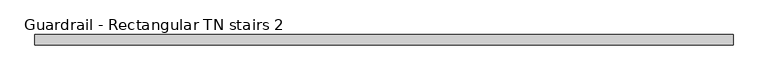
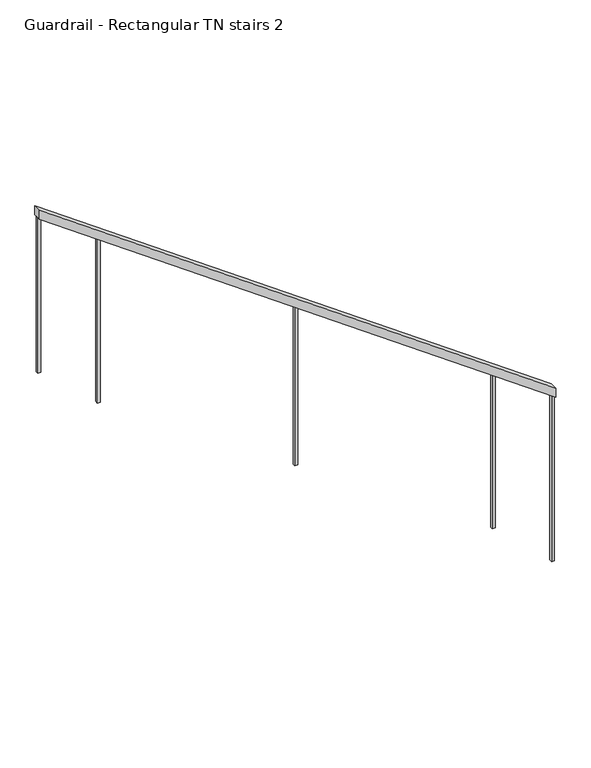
"""IFC4 building model written with IfcOpenShell, lengths in millimetres: railing geometry, Guardrail - Rectangular TN stairs 2."""

import ifcopenshell
import ifcopenshell.guid

model = None  # the IFC model being written
_history = None  # IfcOwnerHistory: only IFC2X3 demands one
_inside = {}  # id of a spatial element -> (the spatial element, [elements in it])
_under = {}  # id of a project, library or spatial element -> (it, [spatial elements below it])
_declared = {}  # id of a project -> (the project, [libraries it declares])
_typed = {}  # id of a type object -> (the type object, [elements of that type])
_made_of = {}  # id of a material, layer set ... -> (it, [elements and type objects made of it])


def new_model(schema):
    """Start an empty IFC model of exactly this schema.

    Asked for "IFC4X3", IfcOpenShell would pick the latest addendum, in which some entities
    have other attributes; the version numbers below select the first issue.
    IFC2X3 requires an IfcOwnerHistory on every rooted entity: one is made here for all.
    """
    global model, _history
    if schema == "IFC4X3":
        model = ifcopenshell.file(schema_version=(4, 3, 0, 0))
    else:
        model = ifcopenshell.file(schema=schema)
    _inside.clear()
    _under.clear()
    _declared.clear()
    _typed.clear()
    _made_of.clear()
    _history = None
    if model.schema == "IFC2X3":
        org = make("IfcOrganization", Name="unknown")
        user = make(
            "IfcPersonAndOrganization",
            ThePerson=make("IfcPerson", FamilyName="unknown"),
            TheOrganization=org,
        )
        app = make(
            "IfcApplication",
            ApplicationDeveloper=org,
            Version="unknown",
            ApplicationFullName="unknown",
            ApplicationIdentifier="unknown",
        )
        _history = make(
            "IfcOwnerHistory",
            OwningUser=user,
            OwningApplication=app,
            ChangeAction="ADDED",
            CreationDate=0,
        )
    return model


def make(cls, **values):
    """One entity of the class cls with the attributes given. An attribute that is None is left unset."""
    return model.create_entity(
        cls, **{name: value for name, value in values.items() if value is not None}
    )


def rooted(cls, **values):
    """An entity with a GlobalId (a new one), such as an element, a storey or a relation."""
    return make(cls, GlobalId=ifcopenshell.guid.new(), OwnerHistory=_history, **values)


def si_unit(unit_type, name, prefix=None):
    """IfcSIUnit, for example si_unit("LENGTHUNIT", "METRE", prefix="MILLI")."""
    return make("IfcSIUnit", UnitType=unit_type, Prefix=prefix, Name=name)


def assignment(units):
    """IfcUnitAssignment: the units of a project."""
    return None if units is None else make("IfcUnitAssignment", Units=units)


def point(xyz):
    """IfcCartesianPoint."""
    return None if xyz is None else make("IfcCartesianPoint", Coordinates=xyz)


def direction(xyz):
    """IfcDirection."""
    return None if xyz is None else make("IfcDirection", DirectionRatios=xyz)


def frame(location, z_axis=None, x_axis=None):
    """IfcAxis2Placement3D, a coordinate frame: its origin and axes. An axis left out is left unset."""
    return make(
        "IfcAxis2Placement3D",
        Location=point(location),
        Axis=direction(z_axis),
        RefDirection=direction(x_axis),
    )


def origin():
    """The frame at (0, 0, 0) with its axes left unset."""
    return frame((0.0, 0.0, 0.0))


def place(relative_to, where):
    """IfcLocalPlacement: puts the frame where relative to a parent placement (None: the world)."""
    return make(
        "IfcLocalPlacement", PlacementRelTo=relative_to, RelativePlacement=where
    )


def context(
    kind, dimensions, precision=None, world=None, true_north=None, identifier=None
):
    """IfcGeometricRepresentationContext, for example the 3D "Model" context."""
    return make(
        "IfcGeometricRepresentationContext",
        ContextIdentifier=identifier,
        ContextType=kind,
        CoordinateSpaceDimension=dimensions,
        Precision=precision,
        WorldCoordinateSystem=world,
        TrueNorth=true_north,
    )


def project(units=None, contexts=None):
    """IfcProject with its units and contexts."""
    return rooted(
        "IfcProject",
        Name="project",
        RepresentationContexts=contexts,
        UnitsInContext=assignment(units),
    )


def spatial(cls, under=None, at=None, **own):
    """A site, building, storey or space (cls), placed at a placement, below another one or the project."""
    s = rooted(cls, ObjectPlacement=at, **own)
    if under is not None:
        _under.setdefault(under.id(), (under, []))[1].append(s)
    return s


def polyline(points):
    """IfcPolyline through the points."""
    return make("IfcPolyline", Points=[point(p) for p in points])


def outline(outer, holes=None, kind="AREA"):
    """IfcArbitraryClosedProfileDef: a profile drawn as a closed curve; with holes, ...WithVoids."""
    if holes is None:
        return make("IfcArbitraryClosedProfileDef", ProfileType=kind, OuterCurve=outer)
    return make(
        "IfcArbitraryProfileDefWithVoids",
        ProfileType=kind,
        OuterCurve=outer,
        InnerCurves=holes,
    )


def extrude(swept, where, along, depth):
    """IfcExtrudedAreaSolid: the profile swept, set in the frame where, extruded along a direction by depth."""
    return make(
        "IfcExtrudedAreaSolid",
        SweptArea=swept,
        Position=where,
        ExtrudedDirection=direction(along),
        Depth=depth,
    )


def shape(context_of_items, identifier, shape_type, items):
    """IfcShapeRepresentation: the items that make up one representation, for example the "Body"."""
    return make(
        "IfcShapeRepresentation",
        ContextOfItems=context_of_items,
        RepresentationIdentifier=identifier,
        RepresentationType=shape_type,
        Items=items,
    )


def source(mapping_origin, context_of_items, identifier, shape_type, items):
    """IfcRepresentationMap: a shape defined once, which mapped items show again and again."""
    return make(
        "IfcRepresentationMap",
        MappingOrigin=mapping_origin,
        MappedRepresentation=shape(context_of_items, identifier, shape_type, items),
    )


def transform(
    local_origin,
    x_axis=None,
    y_axis=None,
    z_axis=None,
    scale=None,
    scale2=None,
    scale3=None,
    uniform=True,
):
    """IfcCartesianTransformationOperator3D, or its non-uniform kind. x_axis, y_axis, z_axis: its Axis1, 2, 3."""
    if uniform:
        return make(
            "IfcCartesianTransformationOperator3D",
            Axis1=direction(x_axis),
            Axis2=direction(y_axis),
            LocalOrigin=point(local_origin),
            Scale=scale,
            Axis3=direction(z_axis),
        )
    return make(
        "IfcCartesianTransformationOperator3DnonUniform",
        Axis1=direction(x_axis),
        Axis2=direction(y_axis),
        LocalOrigin=point(local_origin),
        Scale=scale,
        Axis3=direction(z_axis),
        Scale2=scale2,
        Scale3=scale3,
    )


def mapped(mapping_source, mapping_target):
    """IfcMappedItem: shows the shape of a source again, moved by a transform."""
    return make(
        "IfcMappedItem", MappingSource=mapping_source, MappingTarget=mapping_target
    )


def made_of(thing, what):
    """Note that an element or type object is made of a material, layer set ...; save() writes the relation."""
    if what is not None:
        _made_of.setdefault(what.id(), (what, []))[1].append(thing)
    return thing


def element(
    cls,
    number,
    at=None,
    inside=None,
    cuts=None,
    type_object=None,
    material=None,
    context=None,
    identifier="Body",
    shape_type=None,
    held_by="IfcProductDefinitionShape",
    body=None,
    shapes=None,
    **own,
):
    """One element of the class cls, such as IfcWall. Its Tag is "e" and its number.

    at: its placement. inside: the storey or other place that contains it. cuts: it is an
    opening in that element (IfcRelVoidsElement). A single representation is given by context,
    identifier, shape_type and body (its items); several are given by shapes. held_by: the class
    of the entity that holds the representations. save() writes the other relations.
    """
    e = rooted(cls, Tag="e%d" % number, ObjectPlacement=at, **own)
    if body is not None:
        shapes = [shape(context, identifier, shape_type, body)]
    if shapes is not None:
        e.Representation = make(held_by, Representations=shapes)
    if inside is not None:
        _inside.setdefault(inside.id(), (inside, []))[1].append(e)
    if cuts is not None:
        rooted(
            "IfcRelVoidsElement", RelatingBuildingElement=cuts, RelatedOpeningElement=e
        )
    if type_object is not None:
        _typed.setdefault(type_object.id(), (type_object, []))[1].append(e)
    return made_of(e, material)


def aggregate(whole, parts):
    """IfcRelAggregates: a whole, such as a stair, and the parts it consists of."""
    return rooted("IfcRelAggregates", RelatingObject=whole, RelatedObjects=parts)


def save(model, path):
    """Write the relations noted so far, then the file.

    IfcRelAggregates (storeys below a building ...), IfcRelContainedInSpatialStructure (elements
    in a storey), IfcRelDefinesByType, IfcRelAssociatesMaterial and IfcRelDeclares: one each for
    every whole, place, type object, material and project.
    """
    for whole, parts in _under.values():
        aggregate(whole, parts)
    for where, things in _inside.values():
        rooted(
            "IfcRelContainedInSpatialStructure",
            RelatedElements=things,
            RelatingStructure=where,
        )
    for kind, things in _typed.values():
        rooted("IfcRelDefinesByType", RelatedObjects=things, RelatingType=kind)
    for what, things in _made_of.values():
        rooted("IfcRelAssociatesMaterial", RelatedObjects=things, RelatingMaterial=what)
    for by, libraries in _declared.values():
        rooted("IfcRelDeclares", RelatingContext=by, RelatedDefinitions=libraries)
    model.write(path)


def guardrail_rectangular_tn_stairs_2_f829b52c(model_context):
    return source(origin(), model_context, "Body", "SweptSolid", [
        extrude(outline(polyline([(6230.3655566, -25289.1157069), (6167.9372533, -25289.1157069), (3739.3658247, -21889.1157069), (3801.794128, -21889.1157069), (6230.3655566, -25289.1157069)])), frame((0.0, -13907.6966791, 0.0), z_axis=(0.0, 1.0, 0.0), x_axis=(0.0, 0.0, 1.0)), (0.0, 0.0, 1.0), 50.8),
        extrude(outline(polyline([(4018.276539, -22279.5907069), (4031.8836818, -22298.6407069), (2957.1428571, -22298.6407069), (2957.1428571, -22279.5907069), (4018.276539, -22279.5907069)])), frame((0.0, -13891.8216791, 0.0), z_axis=(0.0, 1.0, 0.0), x_axis=(0.0, 0.0, 1.0)), (0.0, 0.0, 1.0), 19.05),
        extrude(outline(polyline([(4946.8479675, -23579.5907069), (4960.4551104, -23598.6407069), (3850.0, -23598.6407069), (3850.0, -23579.5907069), (4946.8479675, -23579.5907069)])), frame((0.0, -13891.8216791, 0.0), z_axis=(0.0, 1.0, 0.0), x_axis=(0.0, 0.0, 1.0)), (0.0, 0.0, 1.0), 19.05),
        extrude(outline(polyline([(5875.4193961, -24879.5907069), (5889.026539, -24898.6407069), (4742.8571429, -24898.6407069), (4742.8571429, -24879.5907069), (5875.4193961, -24879.5907069)])), frame((0.0, -13891.8216791, 0.0), z_axis=(0.0, 1.0, 0.0), x_axis=(0.0, 0.0, 1.0)), (0.0, 0.0, 1.0), 19.05),
        extrude(outline(polyline([(3739.3479675, -21889.0907069), (3752.9551104, -21908.1407069), (2591.7798423, -21908.1407069), (2591.7798423, -21889.0907069), (3739.3479675, -21889.0907069)])), frame((0.0, -13891.8216791, 0.0), z_axis=(0.0, 1.0, 0.0), x_axis=(0.0, 0.0, 1.0)), (0.0, 0.0, 1.0), 19.05),
        extrude(outline(polyline([(6154.3479675, -25270.0907069), (6167.9551104, -25289.1407069), (5086.7798423, -25289.1407069), (5086.7798423, -25270.0907069), (6154.3479675, -25270.0907069)])), frame((0.0, -13891.8216791, 0.0), z_axis=(0.0, 1.0, 0.0), x_axis=(0.0, 0.0, 1.0)), (0.0, 0.0, 1.0), 19.05),
    ])


if __name__ == "__main__":
    model = new_model("IFC4")
    model_context = context("Model", 3, world=origin())
    ifc_project = project(units=[si_unit("LENGTHUNIT", "METRE", prefix="MILLI")], contexts=[model_context])
    site = spatial("IfcSite", under=ifc_project)
    building = spatial("IfcBuilding", under=site)
    placement = place(None, origin())
    guardrail_rectangular_tn_stairs_2_shape = guardrail_rectangular_tn_stairs_2_f829b52c(model_context)
    element("IfcRailing", 1, ObjectType="Guardrail - Rectangular TN stairs 2", at=placement, inside=building, context=model_context, shape_type="MappedRepresentation", body=[
        mapped(guardrail_rectangular_tn_stairs_2_shape, transform((0.0, 0.0, 0.0), x_axis=(1.0, 0.0, 0.0), y_axis=(0.0, 1.0, 0.0), z_axis=(0.0, 0.0, 1.0))),
    ])
    save(model, "model.ifc")
